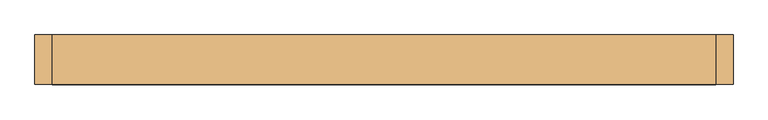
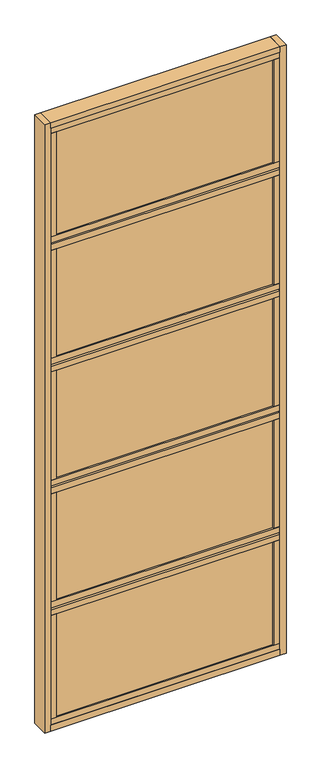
"""IFC4 building model written with IfcOpenShell, lengths in millimetres: door geometry, Mobiliário_Mobiliário de Escritório_Painel de Vidro Duplo - AV5T (Completo)_Marelli : AV5T - Temperado."""

from ifc_helpers import new_model, si_unit, frame, origin, origin_with_axes, place, context, project, spatial, polyline, outline, extrude, source, transform, mapped, element, save


def door_4cc22ded(model_context):
    return source(origin(), model_context, "Body", "SweptSolid", [
        extrude(outline(polyline([(570.0, 42.5), (570.0, -42.5), (-570.0, -42.5), (-570.0, 42.5), (570.0, 42.5)])), origin_with_axes(), (0.0, 0.0, 1.0), 30.0),
        extrude(outline(polyline([(570.0, 21.5), (570.0, -21.5), (-570.0, -21.5), (-570.0, 21.5), (570.0, 21.5)])), frame((0.0, 0.0, 2555.0), z_axis=(0.0, 0.0, 1.0), x_axis=(1.0, 0.0, 0.0)), (0.0, 0.0, 1.0), 10.0),
        extrude(outline(polyline([(570.0, 39.5), (570.0, -39.5), (-570.0, -39.5), (-570.0, 39.5), (570.0, 39.5)])), frame((0.0, 0.0, 2565.0), z_axis=(0.0, 0.0, 1.0), x_axis=(1.0, 0.0, 0.0)), (0.0, 0.0, 1.0), 30.0),
        extrude(outline(polyline([(-540.0, 39.5), (-540.0, -39.5), (-570.0, -39.5), (-570.0, 39.5), (-540.0, 39.5)])), frame((0.0, 0.0, 2595.0), z_axis=(0.0, 0.0, 1.0), x_axis=(1.0, 0.0, 0.0)), (0.0, 0.0, 1.0), 545.0),
        extrude(outline(polyline([(540.0, 39.5), (570.0, 39.5), (570.0, -39.5), (540.0, -39.5), (540.0, 39.5)])), frame((0.0, 0.0, 2595.0), z_axis=(0.0, 0.0, 1.0), x_axis=(1.0, 0.0, 0.0)), (0.0, 0.0, 1.0), 545.0),
        extrude(outline(polyline([(540.0, -25.5), (540.0, -31.5), (-540.0, -31.5), (-540.0, -25.5), (540.0, -25.5)])), frame((0.0, 0.0, 2595.0), z_axis=(0.0, 0.0, 1.0), x_axis=(1.0, 0.0, 0.0)), (0.0, 0.0, 1.0), 545.0),
        extrude(outline(polyline([(570.0, 39.5), (570.0, -39.5), (-570.0, -39.5), (-570.0, 39.5), (570.0, 39.5)])), frame((0.0, 0.0, 2525.0), z_axis=(0.0, 0.0, 1.0), x_axis=(1.0, 0.0, 0.0)), (0.0, 0.0, 1.0), 30.0),
        extrude(outline(polyline([(570.0, 39.5), (570.0, -39.5), (-570.0, -39.5), (-570.0, 39.5), (570.0, 39.5)])), frame((0.0, 0.0, 1925.0), z_axis=(0.0, 0.0, 1.0), x_axis=(1.0, 0.0, 0.0)), (0.0, 0.0, 1.0), 30.0),
        extrude(outline(polyline([(570.0, 21.5), (570.0, -21.5), (-570.0, -21.5), (-570.0, 21.5), (570.0, 21.5)])), frame((0.0, 0.0, 1915.0), z_axis=(0.0, 0.0, 1.0), x_axis=(1.0, 0.0, 0.0)), (0.0, 0.0, 1.0), 10.0),
        extrude(outline(polyline([(570.0, 21.5), (570.0, -21.5), (-570.0, -21.5), (-570.0, 21.5), (570.0, 21.5)])), frame((0.0, 0.0, 1275.0), z_axis=(0.0, 0.0, 1.0), x_axis=(1.0, 0.0, 0.0)), (0.0, 0.0, 1.0), 10.0),
        extrude(outline(polyline([(570.0, 21.5), (570.0, -21.5), (-570.0, -21.5), (-570.0, 21.5), (570.0, 21.5)])), frame((0.0, 0.0, 635.0), z_axis=(0.0, 0.0, 1.0), x_axis=(1.0, 0.0, 0.0)), (0.0, 0.0, 1.0), 10.0),
        extrude(outline(polyline([(570.0, 39.5), (570.0, -39.5), (-570.0, -39.5), (-570.0, 39.5), (570.0, 39.5)])), frame((0.0, 0.0, 1285.0), z_axis=(0.0, 0.0, 1.0), x_axis=(1.0, 0.0, 0.0)), (0.0, 0.0, 1.0), 30.0),
        extrude(outline(polyline([(-540.0, 39.5), (-540.0, -39.5), (-570.0, -39.5), (-570.0, 39.5), (-540.0, 39.5)])), frame((0.0, 0.0, 1315.0), z_axis=(0.0, 0.0, 1.0), x_axis=(1.0, 0.0, 0.0)), (0.0, 0.0, 1.0), 570.0),
        extrude(outline(polyline([(540.0, 39.5), (570.0, 39.5), (570.0, -39.5), (540.0, -39.5), (540.0, 39.5)])), frame((0.0, 0.0, 1315.0), z_axis=(0.0, 0.0, 1.0), x_axis=(1.0, 0.0, 0.0)), (0.0, 0.0, 1.0), 570.0),
        extrude(outline(polyline([(570.0, 39.5), (570.0, -39.5), (-570.0, -39.5), (-570.0, 39.5), (570.0, 39.5)])), frame((0.0, 0.0, 1885.0), z_axis=(0.0, 0.0, 1.0), x_axis=(1.0, 0.0, 0.0)), (0.0, 0.0, 1.0), 30.0),
        extrude(outline(polyline([(570.0, 39.5), (570.0, -39.5), (-570.0, -39.5), (-570.0, 39.5), (570.0, 39.5)])), frame((0.0, 0.0, 1245.0), z_axis=(0.0, 0.0, 1.0), x_axis=(1.0, 0.0, 0.0)), (0.0, 0.0, 1.0), 30.0),
        extrude(outline(polyline([(570.0, 39.5), (570.0, -39.5), (-570.0, -39.5), (-570.0, 39.5), (570.0, 39.5)])), frame((0.0, 0.0, 645.0), z_axis=(0.0, 0.0, 1.0), x_axis=(1.0, 0.0, 0.0)), (0.0, 0.0, 1.0), 30.0),
        extrude(outline(polyline([(-540.0, 39.5), (-540.0, -39.5), (-570.0, -39.5), (-570.0, 39.5), (-540.0, 39.5)])), frame((0.0, 0.0, 60.0), z_axis=(0.0, 0.0, 1.0), x_axis=(1.0, 0.0, 0.0)), (0.0, 0.0, 1.0), 545.0),
        extrude(outline(polyline([(540.0, 39.5), (570.0, 39.5), (570.0, -39.5), (540.0, -39.5), (540.0, 39.5)])), frame((0.0, 0.0, 60.0), z_axis=(0.0, 0.0, 1.0), x_axis=(1.0, 0.0, 0.0)), (0.0, 0.0, 1.0), 545.0),
        extrude(outline(polyline([(570.0, 39.5), (570.0, -39.5), (-570.0, -39.5), (-570.0, 39.5), (570.0, 39.5)])), frame((0.0, 0.0, 605.0), z_axis=(0.0, 0.0, 1.0), x_axis=(1.0, 0.0, 0.0)), (0.0, 0.0, 1.0), 30.0),
        extrude(outline(polyline([(570.0, 39.5), (570.0, -39.5), (-570.0, -39.5), (-570.0, 39.5), (570.0, 39.5)])), frame((0.0, 0.0, 30.0), z_axis=(0.0, 0.0, 1.0), x_axis=(1.0, 0.0, 0.0)), (0.0, 0.0, 1.0), 30.0),
        extrude(outline(polyline([(540.0, -25.5), (540.0, -31.5), (-540.0, -31.5), (-540.0, -25.5), (540.0, -25.5)])), frame((0.0, 0.0, 1315.0), z_axis=(0.0, 0.0, 1.0), x_axis=(1.0, 0.0, 0.0)), (0.0, 0.0, 1.0), 570.0),
        extrude(outline(polyline([(540.0, -25.5), (540.0, -31.5), (-540.0, -31.5), (-540.0, -25.5), (540.0, -25.5)])), frame((0.0, 0.0, 60.0), z_axis=(0.0, 0.0, 1.0), x_axis=(1.0, 0.0, 0.0)), (0.0, 0.0, 1.0), 545.0),
        extrude(outline(polyline([(540.0, 31.5), (540.0, 25.5), (-540.0, 25.5), (-540.0, 31.5), (540.0, 31.5)])), frame((0.0, 0.0, 2595.0), z_axis=(0.0, 0.0, 1.0), x_axis=(1.0, 0.0, 0.0)), (0.0, 0.0, 1.0), 545.0),
        extrude(outline(polyline([(540.0, 31.5), (540.0, 25.5), (-540.0, 25.5), (-540.0, 31.5), (540.0, 31.5)])), frame((0.0, 0.0, 1315.0), z_axis=(0.0, 0.0, 1.0), x_axis=(1.0, 0.0, 0.0)), (0.0, 0.0, 1.0), 570.0),
        extrude(outline(polyline([(540.0, 31.5), (540.0, 25.5), (-540.0, 25.5), (-540.0, 31.5), (540.0, 31.5)])), frame((0.0, 0.0, 60.0), z_axis=(0.0, 0.0, 1.0), x_axis=(1.0, 0.0, 0.0)), (0.0, 0.0, 1.0), 545.0),
        extrude(outline(polyline([(570.0, 42.5), (570.0, -42.5), (-570.0, -42.5), (-570.0, 42.5), (570.0, 42.5)])), frame((0.0, 0.0, 3170.0), z_axis=(0.0, 0.0, 1.0), x_axis=(1.0, 0.0, 0.0)), (0.0, 0.0, 1.0), 30.0),
        extrude(outline(polyline([(570.0, 39.5), (570.0, -39.5), (-570.0, -39.5), (-570.0, 39.5), (570.0, 39.5)])), frame((0.0, 0.0, 3140.0), z_axis=(0.0, 0.0, 1.0), x_axis=(1.0, 0.0, 0.0)), (0.0, 0.0, 1.0), 30.0),
        extrude(outline(polyline([(-600.0, -42.5), (-600.0, 42.5), (-570.0, 42.5), (-570.0, -42.5), (-600.0, -42.5)])), origin_with_axes(), (0.0, 0.0, 1.0), 3200.0),
        extrude(outline(polyline([(600.0, -42.5), (570.0, -42.5), (570.0, 42.5), (600.0, 42.5), (600.0, -42.5)])), origin_with_axes(), (0.0, 0.0, 1.0), 3200.0),
        extrude(outline(polyline([(-540.0, 39.5), (-540.0, -39.5), (-570.0, -39.5), (-570.0, 39.5), (-540.0, 39.5)])), frame((0.0, 0.0, 1955.0), z_axis=(0.0, 0.0, 1.0), x_axis=(1.0, 0.0, 0.0)), (0.0, 0.0, 1.0), 570.0),
        extrude(outline(polyline([(540.0, 39.5), (570.0, 39.5), (570.0, -39.5), (540.0, -39.5), (540.0, 39.5)])), frame((0.0, 0.0, 1955.0), z_axis=(0.0, 0.0, 1.0), x_axis=(1.0, 0.0, 0.0)), (0.0, 0.0, 1.0), 570.0),
        extrude(outline(polyline([(540.0, -25.5), (540.0, -31.5), (-540.0, -31.5), (-540.0, -25.5), (540.0, -25.5)])), frame((0.0, 0.0, 1955.0), z_axis=(0.0, 0.0, 1.0), x_axis=(1.0, 0.0, 0.0)), (0.0, 0.0, 1.0), 570.0),
        extrude(outline(polyline([(540.0, 31.5), (540.0, 25.5), (-540.0, 25.5), (-540.0, 31.5), (540.0, 31.5)])), frame((0.0, 0.0, 1955.0), z_axis=(0.0, 0.0, 1.0), x_axis=(1.0, 0.0, 0.0)), (0.0, 0.0, 1.0), 570.0),
        extrude(outline(polyline([(-540.0, 39.5), (-540.0, -39.5), (-570.0, -39.5), (-570.0, 39.5), (-540.0, 39.5)])), frame((0.0, 0.0, 675.0), z_axis=(0.0, 0.0, 1.0), x_axis=(1.0, 0.0, 0.0)), (0.0, 0.0, 1.0), 570.0),
        extrude(outline(polyline([(540.0, 39.5), (570.0, 39.5), (570.0, -39.5), (540.0, -39.5), (540.0, 39.5)])), frame((0.0, 0.0, 675.0), z_axis=(0.0, 0.0, 1.0), x_axis=(1.0, 0.0, 0.0)), (0.0, 0.0, 1.0), 570.0),
        extrude(outline(polyline([(540.0, -25.5), (540.0, -31.5), (-540.0, -31.5), (-540.0, -25.5), (540.0, -25.5)])), frame((0.0, 0.0, 675.0), z_axis=(0.0, 0.0, 1.0), x_axis=(1.0, 0.0, 0.0)), (0.0, 0.0, 1.0), 570.0),
        extrude(outline(polyline([(540.0, 31.5), (540.0, 25.5), (-540.0, 25.5), (-540.0, 31.5), (540.0, 31.5)])), frame((0.0, 0.0, 675.0), z_axis=(0.0, 0.0, 1.0), x_axis=(1.0, 0.0, 0.0)), (0.0, 0.0, 1.0), 570.0),
    ])


if __name__ == "__main__":
    model = new_model("IFC4")
    model_context = context("Model", 3, world=origin())
    ifc_project = project(units=[si_unit("LENGTHUNIT", "METRE", prefix="MILLI")], contexts=[model_context])
    site = spatial("IfcSite", under=ifc_project)
    building = spatial("IfcBuilding", under=site)
    placement = place(None, origin())
    door_shape = door_4cc22ded(model_context)
    element("IfcDoor", 1, ObjectType="Mobiliário_Mobiliário de Escritório_Painel de Vidro Duplo - AV5T (Completo)_Marelli : AV5T - Temperado", at=placement, inside=building, context=model_context, shape_type="MappedRepresentation", body=[
        mapped(door_shape, transform((0.0, 0.0, 0.0), x_axis=(1.0, 0.0, 0.0), y_axis=(0.0, 1.0, 0.0), z_axis=(0.0, 0.0, 1.0))),
    ])
    save(model, "model.ifc")
